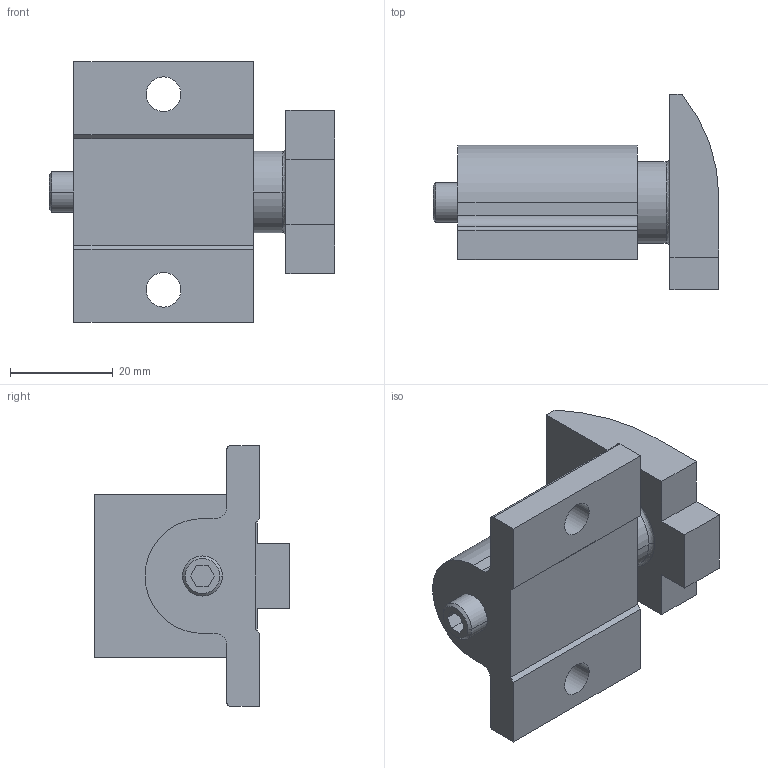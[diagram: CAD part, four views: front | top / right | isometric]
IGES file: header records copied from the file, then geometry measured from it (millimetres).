
Start section:  PTC IGES file: ss92a-3d.igs
Global section: file name: ss92a-3d.igs; native system: Pro/ENGINEER by Parametric Technology Corporation; preprocessor: 2002350; author: chant; organization: Unknown; date: 061026.150150; units: inch
Bounding box: 55.63 x 38.1 x 50.8 mm (x, y, z)
Surface area: 11490.4 mm2 (no closed solid volume)
Topology: 0 solids, 0 shells, 60 faces, 424 edges, 537 vertices
Faces by surface type: bspline 34, revolution 26
